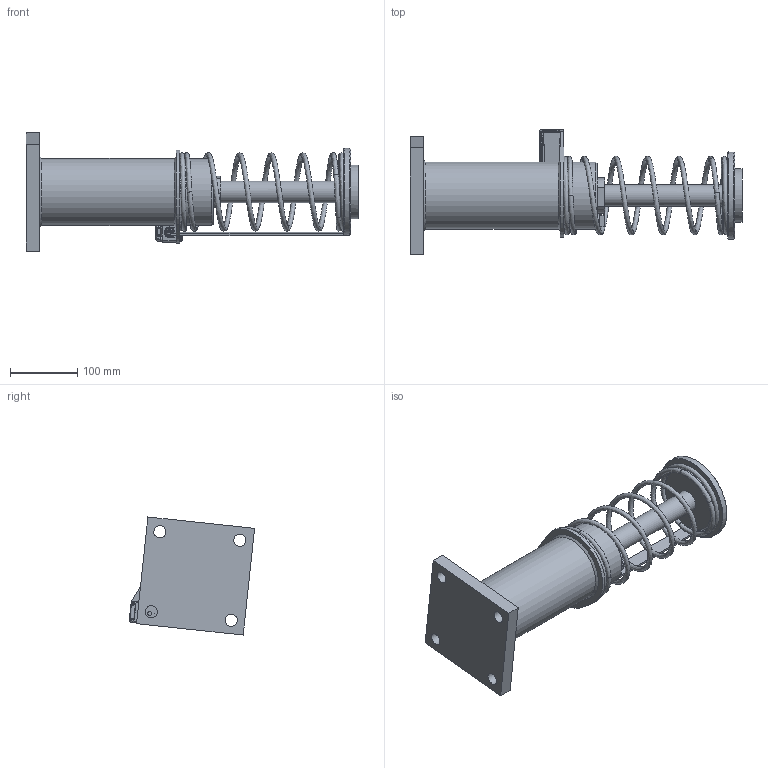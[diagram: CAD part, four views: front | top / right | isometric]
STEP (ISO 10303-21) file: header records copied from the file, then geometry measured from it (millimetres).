
FILE_DESCRIPTION(/* description */ ('Diese Zeichnung ist Eigentum der Henning GmbH & Co. KG und darf nur mit Genehmigung an dritte weitergegeben werden Henning GmbH & Co. KG'),/* implementation_level */ '2;1');
FILE_NAME(/* name */ '\\dc1\Dokumentenverwaltung\Fertigung\Liftpuffer\97400000-97699999-LIFTPUFFER CAD\3-D Zeichnungen\Entwicklung\Liftpuffer Low-Cost\HPL-40-175\HPL-40-175-Kunde.stp',/* time_stamp */ '2019-04-08T16:18:37+02:00',/* author */ ('Baecker'),/* organization */ ('Henning GmbH & Co. KG'),/* preprocessor_version */ 'ST-DEVELOPER v17.2',/* originating_system */ 'Autodesk Inventor 2019',/* authorisation */ '');
FILE_SCHEMA (('AUTOMOTIVE_DESIGN { 1 0 10303 214 3 1 1 }'));
Products named in the file (1): HPL-40-175-Kunde
Bounding box: 495 x 186.7 x 176.1 mm (x, y, z)
Volume: 3136365.1 mm3; surface area: 313401.4 mm2
Topology: 2 solids, 2 shells, 2100 faces, 5900 edges, 3830 vertices
Faces by surface type: plane 1119, cylinder 471, bspline 306, cone 89, torus 59, sphere 56
Full cylindrical faces by diameter (mm): 1.4 x1, 1.7 x1, 2 x1, 2.15 x2, 2.5 x2, 3 x2, 3.25 x1, 3.6 x1, 3.95 x2, 4 x5, 4.2 x2, 4.3 x2, 5 x1, 5.4 x1, 6 x2, 6.6 x2, 7 x3, 7.53 x1, 8 x1, 8.3 x1, 8.4 x1, 9 x1, 10 x1, 10.042 x1, 11 x1, 11.2 x1, 11.4 x1, 13 x1, 16 x1, 18 x5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
Entity records: 81644 total; most frequent: CARTESIAN_POINT 25619, ORIENTED_EDGE 11782, DIRECTION 10700, EDGE_CURVE 5891, VERTEX_POINT 3830, LINE 3584, VECTOR 3584, AXIS2_PLACEMENT_3D 3558
